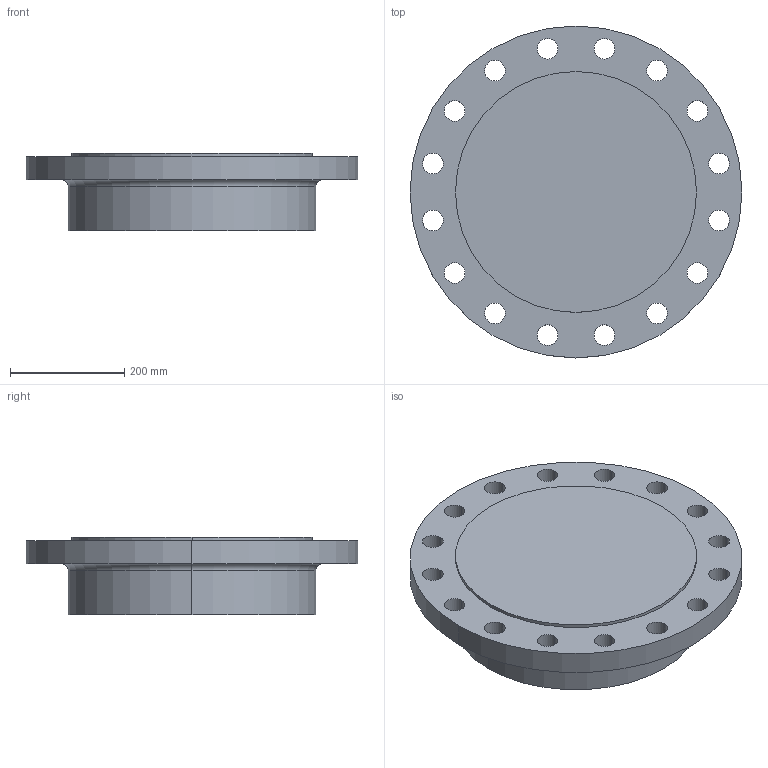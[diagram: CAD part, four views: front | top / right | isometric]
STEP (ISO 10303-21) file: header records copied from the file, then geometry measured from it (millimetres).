
FILE_DESCRIPTION (( 'STEP AP214' ), '1' );
FILE_NAME ('PN40 DN350 Type 21(i) - Type E Face.STEP', '2019-01-05T21:46:05', ( '' ), ( '' ), 'SwSTEP 2.0', 'SolidWorks 2019', '' );
FILE_SCHEMA (( 'AUTOMOTIVE_DESIGN' ));
Length unit declared in the file: millimetre
Products named in the file (1): PN40 DN350 Type 21(i) - Type E Face
Bounding box: 580 x 580 x 135 mm (x, y, z)
Volume: 23894023.8 mm3; surface area: 764063.3 mm2
Topology: 1 solids, 1 shells, 44 faces, 118 edges, 78 vertices
Faces by surface type: cylinder 38, plane 4, torus 2
Entity records: 1524 total; most frequent: DIRECTION 288, CARTESIAN_POINT 241, ORIENTED_EDGE 236, AXIS2_PLACEMENT_3D 125, EDGE_CURVE 118, CIRCLE 80, VERTEX_POINT 78, EDGE_LOOP 78
